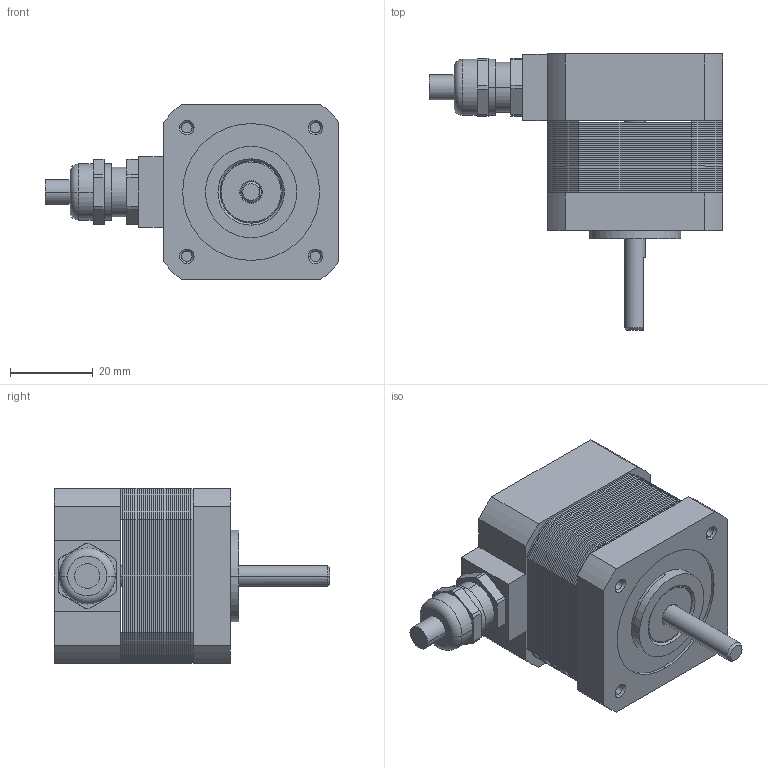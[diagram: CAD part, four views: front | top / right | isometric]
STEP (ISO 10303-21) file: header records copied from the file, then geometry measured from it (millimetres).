
FILE_DESCRIPTION((''),'2;1');
FILE_NAME('3_1_01_042_1842_SW0003','2021-11-29T10:38:21',('yangle'),(''),'CREO PARAMETRIC BY PTC INC, 2017110','CREO PARAMETRIC BY PTC INC, 2017110','');
FILE_SCHEMA(('CONFIG_CONTROL_DESIGN'));
Length unit declared in the file: millimetre
Products named in the file (1): 3_1_01_042_1842_SW0003
Bounding box: 70.8 x 66.5 x 42.3 mm (x, y, z)
Surface area: 14752.7 mm2 (no closed solid volume)
Topology: 0 solids, 51 shells, 465 faces, 1812 edges, 1342 vertices
Faces by surface type: plane 245, cylinder 194, cone 12, sphere 8, torus 6
Entity records: 19052 total; most frequent: CARTESIAN_POINT 3822, DIRECTION 3476, ORIENTED_EDGE 2506, EDGE_CURVE 1812, VERTEX_POINT 1342, AXIS2_PLACEMENT_3D 1217, VECTOR 1042, LINE 1042
